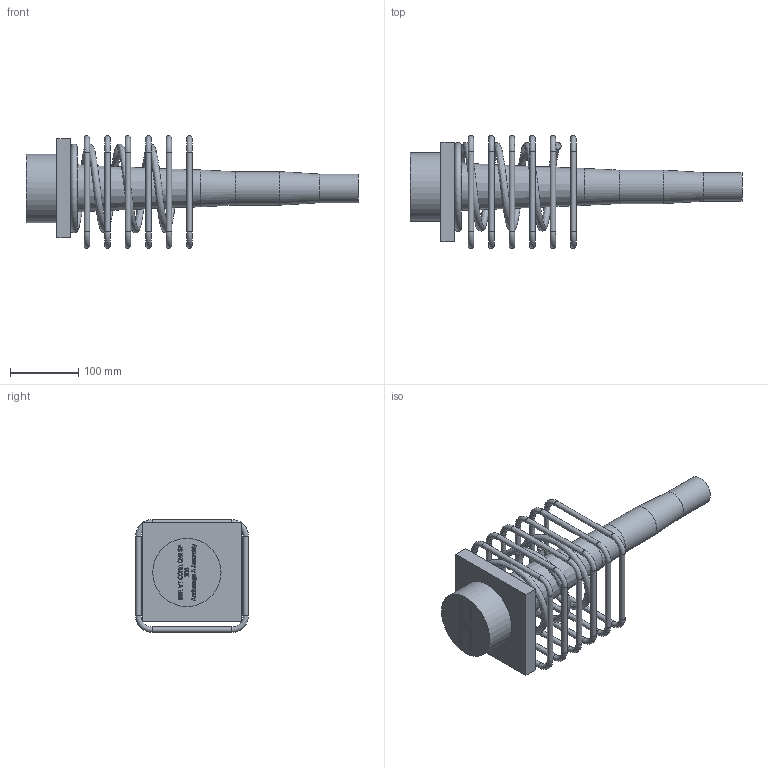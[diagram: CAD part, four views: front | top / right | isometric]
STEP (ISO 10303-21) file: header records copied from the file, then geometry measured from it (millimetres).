
FILE_DESCRIPTION(/* description */ (''),/* implementation_level */ '2;1');
FILE_NAME(/* name */ 'Z:\04 Publications\05 Give-out\BBR\6_3D_Models\BBR VT CONA CMI\BBR VT CONA CMI SP\00306\BBR VT CONA CMI SP 306_Anchorage A Assembly_CS-34,28.stp',/* time_stamp */ '2017-05-05T13:27:55+02:00',/* author */ ('IP'),/* organization */ (''),/* preprocessor_version */ 'ST-DEVELOPER v16.1',/* originating_system */ 'Autodesk Inventor 2016',/* authorisation */ '');
FILE_SCHEMA (('AUTOMOTIVE_DESIGN { 1 0 10303 214 3 1 1 }'));
Length unit declared in the file: millimetre
Products named in the file (1): BBR VT CONA CMI SP 306_Anchorage A Assembly_CS-34,28
Bounding box: 486.1 x 165 x 165 mm (x, y, z)
Volume: 2043537.9 mm3; surface area: 273445.9 mm2
Topology: 8 solids, 8 shells, 661 faces, 1756 edges, 1154 vertices
Faces by surface type: plane 305, bspline 301, torus 27, cylinder 27, cone 1
Full cylindrical faces by diameter (mm): 8 x24, 42 x1, 49 x1, 100 x1
Entity records: 23782 total; most frequent: CARTESIAN_POINT 8893, ORIENTED_EDGE 3404, DIRECTION 1884, EDGE_CURVE 1701, VERTEX_POINT 1153, LINE 1038, VECTOR 1038, EDGE_LOOP 771
